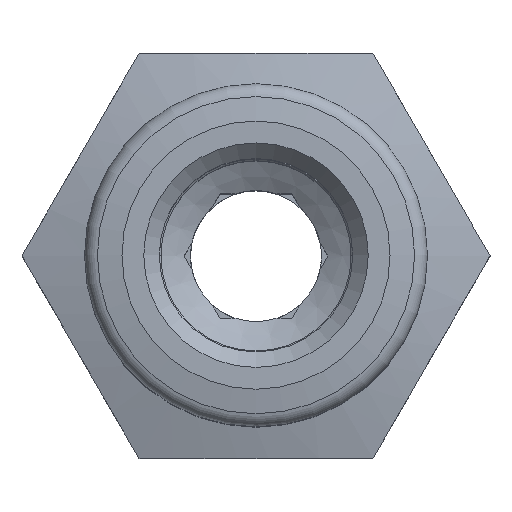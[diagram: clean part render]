
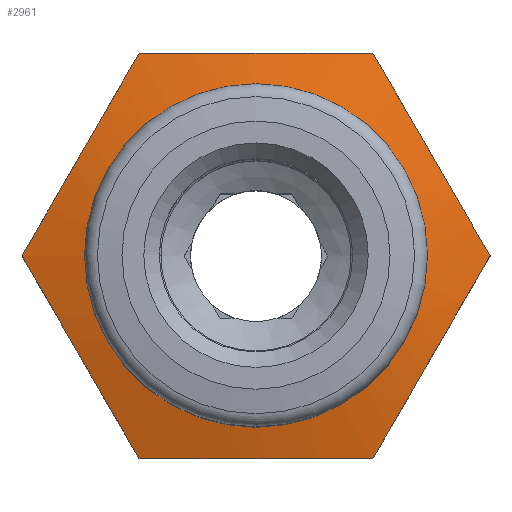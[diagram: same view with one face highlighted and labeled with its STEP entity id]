
A CAD part, top view. The second image highlights one B-rep face of the part: STEP entity #2961.
In plain terms, the highlighted conical face has half-angle 75 degrees and reference radius 8.318 mm.
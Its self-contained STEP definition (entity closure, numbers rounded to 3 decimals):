
#729=HYPERBOLA('',#2826,1.742,6.5);
#732=HYPERBOLA('',#2831,1.742,6.5);
#735=HYPERBOLA('',#2836,1.742,6.5);
#738=HYPERBOLA('',#2841,1.742,6.5);
#741=HYPERBOLA('',#2846,1.742,6.5);
#743=HYPERBOLA('',#2850,1.742,6.5);
#763=CONICAL_SURFACE('',#2851,8.318,75.);
#975=ORIENTED_EDGE('',*,*,#1320,.F.);
#976=ORIENTED_EDGE('',*,*,#1319,.F.);
#977=ORIENTED_EDGE('',*,*,#1300,.F.);
#978=ORIENTED_EDGE('',*,*,#1305,.F.);
#979=ORIENTED_EDGE('',*,*,#1309,.F.);
#980=ORIENTED_EDGE('',*,*,#1313,.F.);
#981=ORIENTED_EDGE('',*,*,#1317,.F.);
#1144=CIRCLE('',#2852,5.5);
#1210=VERTEX_POINT('',#2602);
#1211=VERTEX_POINT('',#2604);
#1213=VERTEX_POINT('',#2612);
#1215=VERTEX_POINT('',#2620);
#1217=VERTEX_POINT('',#2628);
#1219=VERTEX_POINT('',#2636);
#1220=VERTEX_POINT('',#2644);
#1300=EDGE_CURVE('',#1210,#1211,#729,.T.);
#1305=EDGE_CURVE('',#1213,#1210,#732,.T.);
#1309=EDGE_CURVE('',#1215,#1213,#735,.T.);
#1313=EDGE_CURVE('',#1217,#1215,#738,.T.);
#1317=EDGE_CURVE('',#1219,#1217,#741,.T.);
#1319=EDGE_CURVE('',#1211,#1219,#743,.T.);
#1320=EDGE_CURVE('',#1220,#1220,#1144,.T.);
#1405=EDGE_LOOP('',(#975));
#1406=EDGE_LOOP('',(#976,#977,#978,#979,#980,#981));
#1507=FACE_BOUND('',#1405,.T.);
#1508=FACE_BOUND('',#1406,.T.);
#2261=DIRECTION('',(-0.866,0.,0.5));
#2262=DIRECTION('',(0.,-1.,0.));
#2273=DIRECTION('',(0.,0.,1.));
#2274=DIRECTION('',(0.,-1.,0.));
#2284=DIRECTION('',(0.866,0.,0.5));
#2285=DIRECTION('',(0.,-1.,0.));
#2295=DIRECTION('',(0.866,0.,-0.5));
#2296=DIRECTION('',(0.,-1.,0.));
#2306=DIRECTION('',(0.,0.,-1.));
#2307=DIRECTION('',(0.,-1.,0.));
#2314=DIRECTION('',(-0.866,0.,-0.5));
#2315=DIRECTION('',(0.,-1.,0.));
#2316=DIRECTION('',(0.,-1.,0.));
#2317=DIRECTION('',(1.,0.,0.));
#2318=DIRECTION('',(0.,1.,0.));
#2319=DIRECTION('',(0.,0.,5.5));
#2602=CARTESIAN_POINT('',(9.656,13.409,-6.5));
#2604=CARTESIAN_POINT('',(13.409,13.409,0.));
#2605=CARTESIAN_POINT('',(11.532,15.42,-3.25));
#2612=CARTESIAN_POINT('',(2.15,13.409,-6.5));
#2614=CARTESIAN_POINT('',(5.903,15.42,-6.5));
#2620=CARTESIAN_POINT('',(-1.602,13.409,0.));
#2622=CARTESIAN_POINT('',(0.274,15.42,-3.25));
#2628=CARTESIAN_POINT('',(2.15,13.409,6.5));
#2630=CARTESIAN_POINT('',(0.274,15.42,3.25));
#2636=CARTESIAN_POINT('',(9.656,13.409,6.5));
#2638=CARTESIAN_POINT('',(5.903,15.42,6.5));
#2642=CARTESIAN_POINT('',(11.532,15.42,3.25));
#2643=CARTESIAN_POINT('',(5.903,13.191,0.));
#2644=CARTESIAN_POINT('',(5.903,13.946,5.5));
#2645=CARTESIAN_POINT('',(5.903,13.946,0.));
#2826=AXIS2_PLACEMENT_3D('',#2605,#2261,#2262);
#2831=AXIS2_PLACEMENT_3D('',#2614,#2273,#2274);
#2836=AXIS2_PLACEMENT_3D('',#2622,#2284,#2285);
#2841=AXIS2_PLACEMENT_3D('',#2630,#2295,#2296);
#2846=AXIS2_PLACEMENT_3D('',#2638,#2306,#2307);
#2850=AXIS2_PLACEMENT_3D('',#2642,#2314,#2315);
#2851=AXIS2_PLACEMENT_3D('',#2643,#2316,#2317);
#2852=AXIS2_PLACEMENT_3D('',#2645,#2318,#2319);
#2961=ADVANCED_FACE('',(#1507,#1508),#763,.T.);
